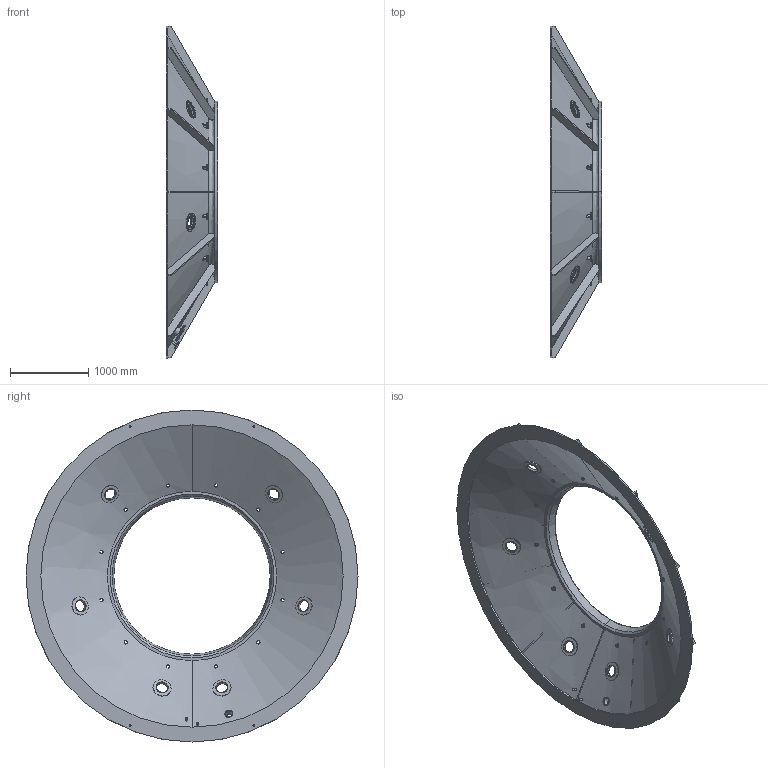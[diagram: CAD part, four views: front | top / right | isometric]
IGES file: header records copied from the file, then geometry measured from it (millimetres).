
Start section:  PTC IGES file: sob_cone.igs
Global section: file name: sob_cone.igs; native system: Pro/ENGINEER by Parametric Technology Corporation; preprocessor: 1999260; author: oshatz; organization: Unknown; date: 000922.101714; units: millimetre
Bounding box: 662 x 4250 x 4250 mm (x, y, z)
Surface area: 32087468.3 mm2 (no closed solid volume)
Topology: 0 solids, 0 shells, 349 faces, 1668 edges, 1668 vertices
Faces by surface type: revolution 234, bspline 115
